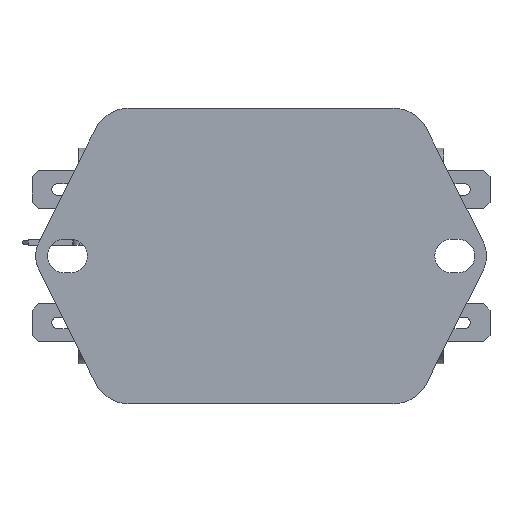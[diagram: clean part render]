
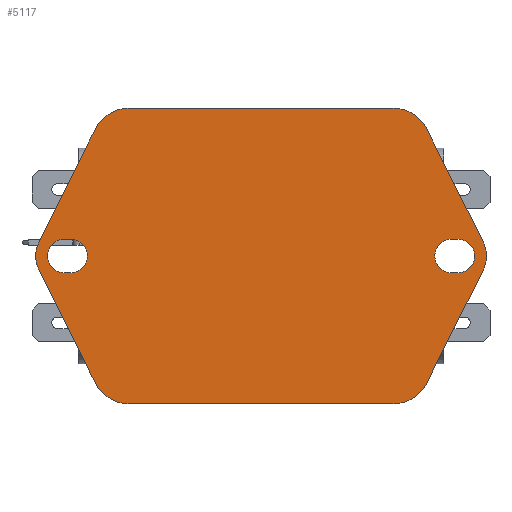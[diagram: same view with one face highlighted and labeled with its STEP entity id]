
A CAD part, top view. The second image highlights one B-rep face of the part: STEP entity #5117.
In plain terms, the highlighted planar face has unit normal (0, 0, 1).
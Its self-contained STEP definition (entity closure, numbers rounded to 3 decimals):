
#73=CARTESIAN_POINT('',(-31.,-2.65,29.3));
#74=VERTEX_POINT('',#73);
#83=CARTESIAN_POINT('',(-30.,-2.65,29.3));
#84=VERTEX_POINT('',#83);
#85=CARTESIAN_POINT('',(-30.,-2.65,29.3));
#86=DIRECTION('',(-1.0,0.0,0.0));
#87=VECTOR('',#86,1.);
#88=LINE('',#85,#87);
#89=EDGE_CURVE('',#84,#74,#88,.T.);
#113=CARTESIAN_POINT('',(-31.,2.65,29.3));
#114=VERTEX_POINT('',#113);
#115=CARTESIAN_POINT('',(-31.,0.,29.3));
#116=DIRECTION('',(0.0,0.0,1.0));
#117=DIRECTION('',(-0.707,0.707,0.0));
#118=AXIS2_PLACEMENT_3D('',#115,#116,#117);
#119=CIRCLE('',#118,2.65);
#120=EDGE_CURVE('',#114,#74,#119,.T.);
#155=CARTESIAN_POINT('',(-30.,2.65,29.3));
#156=VERTEX_POINT('',#155);
#163=CARTESIAN_POINT('',(-31.,2.65,29.3));
#164=DIRECTION('',(1.0,0.0,0.0));
#165=VECTOR('',#164,1.);
#166=LINE('',#163,#165);
#167=EDGE_CURVE('',#114,#156,#166,.T.);
#177=CARTESIAN_POINT('',(-30.,0.,29.3));
#178=DIRECTION('',(0.0,0.0,1.0));
#179=DIRECTION('',(0.707,-0.707,0.0));
#180=AXIS2_PLACEMENT_3D('',#177,#178,#179);
#181=CIRCLE('',#180,2.65);
#182=EDGE_CURVE('',#84,#156,#181,.T.);
#201=CARTESIAN_POINT('',(30.0,-2.65,29.3));
#202=VERTEX_POINT('',#201);
#211=CARTESIAN_POINT('',(31.,-2.65,29.3));
#212=VERTEX_POINT('',#211);
#213=CARTESIAN_POINT('',(31.,-2.65,29.3));
#214=DIRECTION('',(-1.0,0.0,0.0));
#215=VECTOR('',#214,1.);
#216=LINE('',#213,#215);
#217=EDGE_CURVE('',#212,#202,#216,.T.);
#241=CARTESIAN_POINT('',(31.,2.65,29.3));
#242=VERTEX_POINT('',#241);
#243=CARTESIAN_POINT('',(31.,0.,29.3));
#244=DIRECTION('',(0.0,0.0,1.0));
#245=DIRECTION('',(0.707,-0.707,0.0));
#246=AXIS2_PLACEMENT_3D('',#243,#244,#245);
#247=CIRCLE('',#246,2.65);
#248=EDGE_CURVE('',#212,#242,#247,.T.);
#275=CARTESIAN_POINT('',(30.,2.65,29.3));
#276=VERTEX_POINT('',#275);
#277=CARTESIAN_POINT('',(30.,2.65,29.3));
#278=DIRECTION('',(1.0,0.0,0.0));
#279=VECTOR('',#278,1.);
#280=LINE('',#277,#279);
#281=EDGE_CURVE('',#276,#242,#280,.T.);
#305=CARTESIAN_POINT('',(30.,0.,29.3));
#306=DIRECTION('',(0.0,0.0,1.0));
#307=DIRECTION('',(-0.707,0.707,0.0));
#308=AXIS2_PLACEMENT_3D('',#305,#306,#307);
#309=CIRCLE('',#308,2.65);
#310=EDGE_CURVE('',#276,#202,#309,.T.);
#4160=CARTESIAN_POINT('',(-34.971,2.239,29.3));
#4161=VERTEX_POINT('',#4160);
#4168=CARTESIAN_POINT('',(-26.07,20.014,29.3));
#4169=VERTEX_POINT('',#4168);
#4170=CARTESIAN_POINT('',(-26.07,20.014,29.3));
#4171=DIRECTION('',(-0.448,-0.894,0.0));
#4172=VECTOR('',#4171,19.879);
#4173=LINE('',#4170,#4172);
#4174=EDGE_CURVE('',#4169,#4161,#4173,.T.);
#4191=CARTESIAN_POINT('',(-26.07,-20.014,29.3));
#4192=VERTEX_POINT('',#4191);
#4199=CARTESIAN_POINT('',(-34.971,-2.239,29.3));
#4200=VERTEX_POINT('',#4199);
#4201=CARTESIAN_POINT('',(-34.971,-2.239,29.3));
#4202=DIRECTION('',(0.448,-0.894,0.0));
#4203=VECTOR('',#4202,19.879);
#4204=LINE('',#4201,#4203);
#4205=EDGE_CURVE('',#4200,#4192,#4204,.T.);
#4222=CARTESIAN_POINT('',(20.75,-23.3,29.3));
#4223=VERTEX_POINT('',#4222);
#4230=CARTESIAN_POINT('',(-20.75,-23.3,29.3));
#4231=VERTEX_POINT('',#4230);
#4232=CARTESIAN_POINT('',(-20.75,-23.3,29.3));
#4233=DIRECTION('',(1.0,0.0,0.0));
#4234=VECTOR('',#4233,41.5);
#4235=LINE('',#4232,#4234);
#4236=EDGE_CURVE('',#4231,#4223,#4235,.T.);
#4253=CARTESIAN_POINT('',(-20.75,-17.35,29.3));
#4254=DIRECTION('',(0.0,0.0,1.0));
#4255=DIRECTION('',(1.0,0.0,0.0));
#4256=AXIS2_PLACEMENT_3D('',#4253,#4254,#4255);
#4257=CIRCLE('',#4256,5.95);
#4258=EDGE_CURVE('',#4192,#4231,#4257,.T.);
#4271=CARTESIAN_POINT('',(-30.5,0.,29.3));
#4272=DIRECTION('',(0.0,0.0,1.0));
#4273=DIRECTION('',(1.0,0.0,0.0));
#4274=AXIS2_PLACEMENT_3D('',#4271,#4272,#4273);
#4275=CIRCLE('',#4274,5.0);
#4276=EDGE_CURVE('',#4161,#4200,#4275,.T.);
#4289=CARTESIAN_POINT('',(-20.75,23.3,29.3));
#4290=VERTEX_POINT('',#4289);
#4291=CARTESIAN_POINT('',(-20.75,17.35,29.3));
#4292=DIRECTION('',(0.0,0.0,1.0));
#4293=DIRECTION('',(1.0,0.0,0.0));
#4294=AXIS2_PLACEMENT_3D('',#4291,#4292,#4293);
#4295=CIRCLE('',#4294,5.95);
#4296=EDGE_CURVE('',#4290,#4169,#4295,.T.);
#4314=CARTESIAN_POINT('',(26.07,20.014,29.3));
#4315=VERTEX_POINT('',#4314);
#4322=CARTESIAN_POINT('',(34.971,2.239,29.3));
#4323=VERTEX_POINT('',#4322);
#4324=CARTESIAN_POINT('',(34.971,2.239,29.3));
#4325=DIRECTION('',(-0.448,0.894,0.0));
#4326=VECTOR('',#4325,19.879);
#4327=LINE('',#4324,#4326);
#4328=EDGE_CURVE('',#4323,#4315,#4327,.T.);
#4346=CARTESIAN_POINT('',(20.75,23.3,29.3));
#4347=VERTEX_POINT('',#4346);
#4348=CARTESIAN_POINT('',(20.75,23.3,29.3));
#4349=DIRECTION('',(-1.0,0.0,0.0));
#4350=VECTOR('',#4349,41.5);
#4351=LINE('',#4348,#4350);
#4352=EDGE_CURVE('',#4347,#4290,#4351,.T.);
#4369=CARTESIAN_POINT('',(20.75,17.35,29.3));
#4370=DIRECTION('',(0.0,0.0,1.0));
#4371=DIRECTION('',(1.0,0.0,0.0));
#4372=AXIS2_PLACEMENT_3D('',#4369,#4370,#4371);
#4373=CIRCLE('',#4372,5.95);
#4374=EDGE_CURVE('',#4315,#4347,#4373,.T.);
#4387=CARTESIAN_POINT('',(34.971,-2.239,29.3));
#4388=VERTEX_POINT('',#4387);
#4395=CARTESIAN_POINT('',(26.07,-20.014,29.3));
#4396=VERTEX_POINT('',#4395);
#4397=CARTESIAN_POINT('',(26.07,-20.014,29.3));
#4398=DIRECTION('',(0.448,0.894,0.0));
#4399=VECTOR('',#4398,19.879);
#4400=LINE('',#4397,#4399);
#4401=EDGE_CURVE('',#4396,#4388,#4400,.T.);
#4419=CARTESIAN_POINT('',(30.5,0.,29.3));
#4420=DIRECTION('',(0.0,0.0,1.0));
#4421=DIRECTION('',(1.0,0.0,0.0));
#4422=AXIS2_PLACEMENT_3D('',#4419,#4420,#4421);
#4423=CIRCLE('',#4422,5.0);
#4424=EDGE_CURVE('',#4388,#4323,#4423,.T.);
#4436=CARTESIAN_POINT('',(20.75,-17.35,29.3));
#4437=DIRECTION('',(0.0,0.0,1.0));
#4438=DIRECTION('',(1.0,0.0,0.0));
#4439=AXIS2_PLACEMENT_3D('',#4436,#4437,#4438);
#4440=CIRCLE('',#4439,5.95);
#4441=EDGE_CURVE('',#4223,#4396,#4440,.T.);
#5086=CARTESIAN_POINT('',(0.,0.,29.3));
#5087=DIRECTION('',(0.0,0.0,1.0));
#5088=DIRECTION('',(1.0,0.0,0.0));
#5089=AXIS2_PLACEMENT_3D('',#5086,#5087,#5088);
#5090=PLANE('',#5089);
#5091=ORIENTED_EDGE('',*,*,#4401,.T.);
#5092=ORIENTED_EDGE('',*,*,#4424,.T.);
#5093=ORIENTED_EDGE('',*,*,#4328,.T.);
#5094=ORIENTED_EDGE('',*,*,#4374,.T.);
#5095=ORIENTED_EDGE('',*,*,#4352,.T.);
#5096=ORIENTED_EDGE('',*,*,#4296,.T.);
#5097=ORIENTED_EDGE('',*,*,#4174,.T.);
#5098=ORIENTED_EDGE('',*,*,#4276,.T.);
#5099=ORIENTED_EDGE('',*,*,#4205,.T.);
#5100=ORIENTED_EDGE('',*,*,#4258,.T.);
#5101=ORIENTED_EDGE('',*,*,#4236,.T.);
#5102=ORIENTED_EDGE('',*,*,#4441,.T.);
#5103=EDGE_LOOP('',(#5091,#5092,#5093,#5094,#5095,#5096,#5097,#5098,#5099,#5100,#5101,#5102));
#5104=FACE_OUTER_BOUND('',#5103,.T.);
#5105=ORIENTED_EDGE('',*,*,#89,.T.);
#5106=ORIENTED_EDGE('',*,*,#120,.F.);
#5107=ORIENTED_EDGE('',*,*,#167,.T.);
#5108=ORIENTED_EDGE('',*,*,#182,.F.);
#5109=EDGE_LOOP('',(#5105,#5106,#5107,#5108));
#5110=FACE_BOUND('',#5109,.T.);
#5111=ORIENTED_EDGE('',*,*,#217,.T.);
#5112=ORIENTED_EDGE('',*,*,#310,.F.);
#5113=ORIENTED_EDGE('',*,*,#281,.T.);
#5114=ORIENTED_EDGE('',*,*,#248,.F.);
#5115=EDGE_LOOP('',(#5111,#5112,#5113,#5114));
#5116=FACE_BOUND('',#5115,.T.);
#5117=ADVANCED_FACE('',(#5104,#5110,#5116),#5090,.T.);
